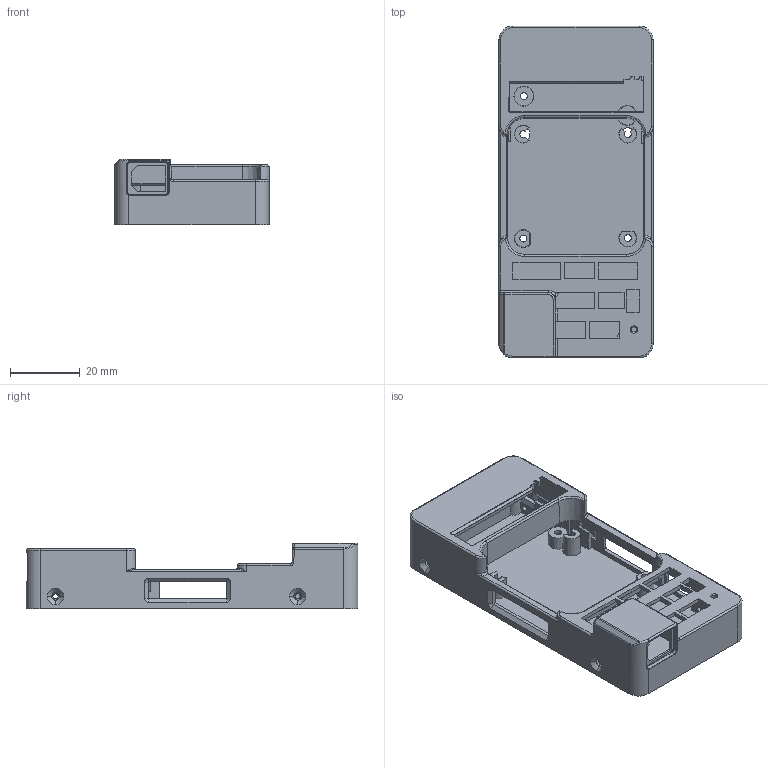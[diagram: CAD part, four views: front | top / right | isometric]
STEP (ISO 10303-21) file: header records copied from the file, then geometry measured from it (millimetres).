
FILE_DESCRIPTION (( 'STEP AP214' ), '1' );
FILE_NAME ('Cube Red Carrier Board.STEP', '2024-03-11T02:16:30', ( '' ), ( '' ), 'SwSTEP 2.0', 'SolidWorks 2018', '' );
FILE_SCHEMA (( 'AUTOMOTIVE_DESIGN' ));
Length unit declared in the file: millimetre
Products named in the file (3): Cube Red Carrier Board Top; Cube Red Carrier Board Bot.stp; Cube Red Carrier Board
Assembly tree (2 placements, depth 2):
  Cube Red Carrier Board
    Cube Red Carrier Board Top
    Cube Red Carrier Board Bot.stp
Bounding box: 44.31 x 95.36 x 18.91 mm (x, y, z)
Volume: 15949.7 mm3; surface area: 23138.1 mm2
Topology: 2 solids, 2 shells, 983 faces, 2481 edges, 1517 vertices
Faces by surface type: plane 427, cylinder 240, cone 157, bspline 92, torus 58, sphere 9
Entity records: 35986 total; most frequent: CARTESIAN_POINT 12823, ORIENTED_EDGE 4962, DIRECTION 4528, EDGE_CURVE 2481, VERTEX_POINT 1517, LINE 1512, VECTOR 1512, AXIS2_PLACEMENT_3D 1508
